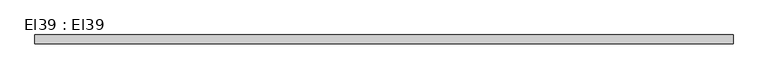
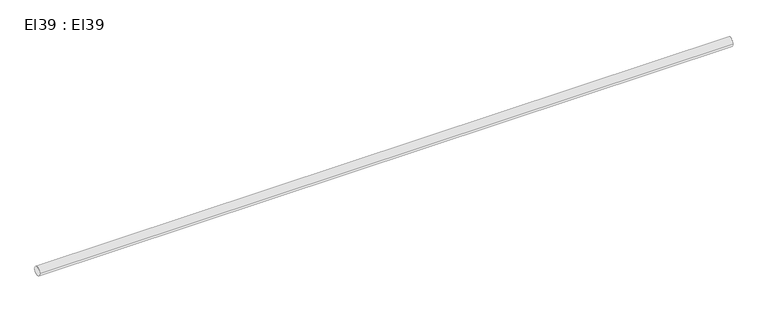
"""IFC4 building model written with IfcOpenShell, lengths in millimetres: cable carrier segment geometry, El39 : El39."""

from ifc_helpers import new_model, si_unit, point, frame, frame_2d, origin, place, context, project, spatial, circle_curve, trimmed, segment, composite_curve, outline, extrude, source, transform, mapped, element, save


def el39_el39_213f5366(model_context):
    return source(origin(), model_context, "Body", "SweptSolid", [
        extrude(outline(composite_curve([segment(trimmed(circle_curve(frame_2d((18747.1, 2950.0)), 9.5), [point((18737.6, 2950.0))], [point((18756.6, 2950.0))], False, "CARTESIAN"), True, "CONTINUOUS"), segment(trimmed(circle_curve(frame_2d((18747.1, 2950.0)), 9.5), [point((18756.6, 2950.0))], [point((18737.6, 2950.0))], False, "CARTESIAN"), True, "CONTINUOUS")], self_intersect=False)), frame((10588.3, 0.0, 0.0), z_axis=(1.0, 0.0, 0.0), x_axis=(0.0, 1.0, 0.0)), (0.0, 0.0, 1.0), 1475.0),
    ])


if __name__ == "__main__":
    model = new_model("IFC4")
    model_context = context("Model", 3, world=origin())
    ifc_project = project(units=[si_unit("LENGTHUNIT", "METRE", prefix="MILLI")], contexts=[model_context])
    site = spatial("IfcSite", under=ifc_project)
    building = spatial("IfcBuilding", under=site)
    placement = place(None, origin())
    el39_el39_shape = el39_el39_213f5366(model_context)
    element("IfcCableCarrierSegment", 1, ObjectType="El39 : El39", at=placement, inside=building, context=model_context, shape_type="MappedRepresentation", body=[
        mapped(el39_el39_shape, transform((0.0, 0.0, 0.0), x_axis=(1.0, 0.0, 0.0), y_axis=(0.0, 1.0, 0.0), z_axis=(0.0, 0.0, 1.0))),
    ])
    save(model, "model.ifc")
